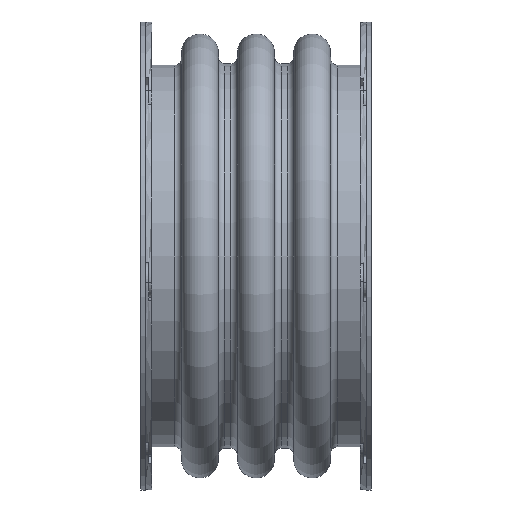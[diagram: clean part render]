
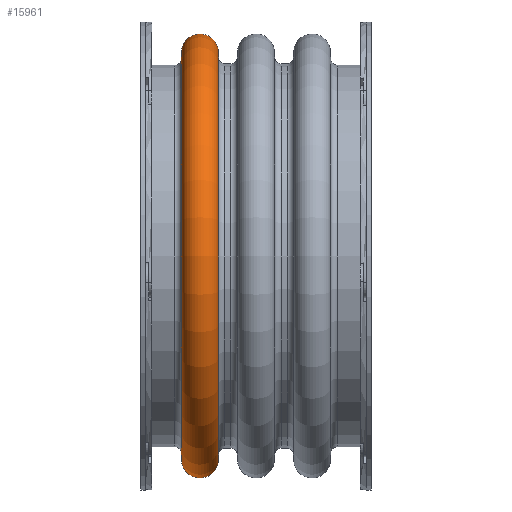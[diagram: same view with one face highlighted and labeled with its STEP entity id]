
A CAD part, front view. The second image highlights one B-rep face of the part: STEP entity #15961.
In plain terms, the highlighted toroidal (fillet/blend) face has major radius 403.225 mm and minor radius 36.513 mm.
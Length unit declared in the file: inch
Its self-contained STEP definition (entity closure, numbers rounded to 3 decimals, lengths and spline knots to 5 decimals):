
#276=FACE_BOUND('',#2731,.T.);
#1135=TOROIDAL_SURFACE('',#17577,15.875,1.4375);
#1620=FACE_OUTER_BOUND('',#2730,.T.);
#2730=EDGE_LOOP('',(#12294));
#2731=EDGE_LOOP('',(#12295));
#5637=CIRCLE('',#17576,15.92263);
#5638=CIRCLE('',#17578,15.92263);
#7102=VERTEX_POINT('',#26549);
#7103=VERTEX_POINT('',#26552);
#8984=EDGE_CURVE('',#7102,#7102,#5637,.T.);
#8985=EDGE_CURVE('',#7103,#7103,#5638,.T.);
#12294=ORIENTED_EDGE('',*,*,#8985,.F.);
#12295=ORIENTED_EDGE('',*,*,#8984,.T.);
#15961=ADVANCED_FACE('',(#1620,#276),#1135,.T.);
#17576=AXIS2_PLACEMENT_3D('',#26550,#21421,#21422);
#17577=AXIS2_PLACEMENT_3D('',#26551,#21423,#21424);
#17578=AXIS2_PLACEMENT_3D('',#26553,#21425,#21426);
#21421=DIRECTION('center_axis',(1.,0.,0.));
#21422=DIRECTION('ref_axis',(0.,0.,-1.));
#21423=DIRECTION('center_axis',(1.,0.,0.));
#21424=DIRECTION('ref_axis',(0.,0.,-1.));
#21425=DIRECTION('center_axis',(1.,0.,0.));
#21426=DIRECTION('ref_axis',(0.,0.,-1.));
#26549=CARTESIAN_POINT('',(-5.81171,15.92263,0.));
#26550=CARTESIAN_POINT('Origin',(-5.81171,0.,
0.));
#26551=CARTESIAN_POINT('Origin',(-4.375,0.,0.));
#26552=CARTESIAN_POINT('',(-2.93829,15.92263,0.));
#26553=CARTESIAN_POINT('Origin',(-2.93829,0.,
0.));
